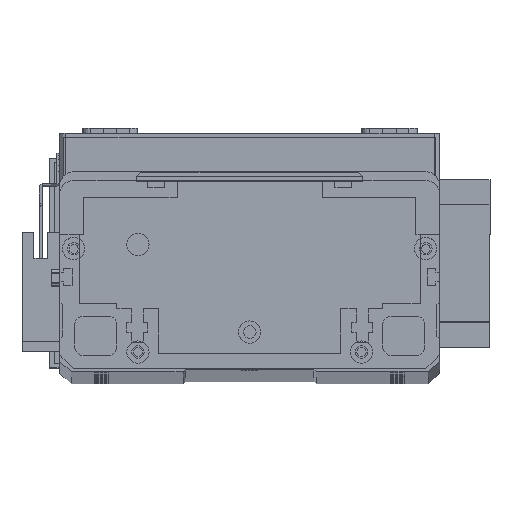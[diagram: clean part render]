
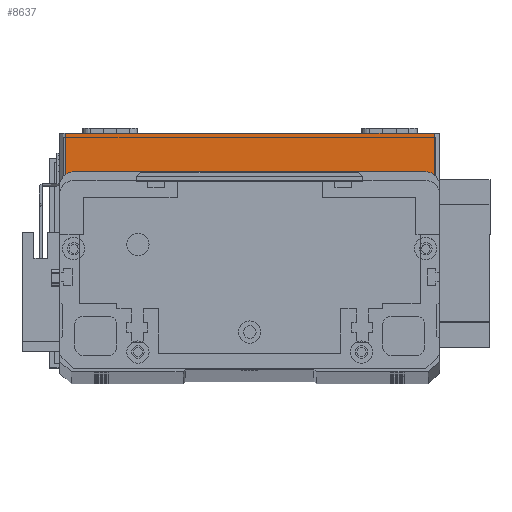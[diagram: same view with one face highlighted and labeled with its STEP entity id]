
A CAD part, top view. The second image highlights one B-rep face of the part: STEP entity #8637.
In plain terms, the highlighted planar face has unit normal (0, 0, 1) as drawn and (0, -1, 0) by its records, which use the part's own axes.
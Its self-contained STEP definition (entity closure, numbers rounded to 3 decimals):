
#3 = CARTESIAN_POINT ( 'NONE',  ( 134., 0., 19.5 ) ) ;
#5400 = LINE ( 'NONE', #15555, #29876 ) ;
#5602 = PLANE ( 'NONE',  #29147 ) ;
#6071 = CARTESIAN_POINT ( 'NONE',  ( 2., 0., 19.5 ) ) ;
#6092 = DIRECTION ( 'NONE',  ( 1., 0., 0. ) ) ;
#6290 = ORIENTED_EDGE ( 'NONE', *, *, #15987, .T. ) ;
#6349 = EDGE_LOOP ( 'NONE', ( #28079, #6290, #25731, #12544 ) ) ;
#6868 = VECTOR ( 'NONE', #9905, 1000. ) ;
#8015 = DIRECTION ( 'NONE',  ( 0., 1., 0. ) ) ;
#8637 = ADVANCED_FACE ( 'NONE', ( #28524 ), #5602, .F. ) ;
#9363 = VERTEX_POINT ( 'NONE', #6071 ) ;
#9806 = CARTESIAN_POINT ( 'NONE',  ( 134., 0., 0. ) ) ;
#9905 = DIRECTION ( 'NONE',  ( 0., 0., 1. ) ) ;
#11587 = DIRECTION ( 'NONE',  ( 1., 0., 0. ) ) ;
#11843 = LINE ( 'NONE', #30507, #22977 ) ;
#12298 = CARTESIAN_POINT ( 'NONE',  ( 134., 0., 19.5 ) ) ;
#12544 = ORIENTED_EDGE ( 'NONE', *, *, #24890, .T. ) ;
#14172 = EDGE_CURVE ( 'NONE', #29853, #14339, #11843, .T. ) ;
#14339 = VERTEX_POINT ( 'NONE', #9806 ) ;
#15555 = CARTESIAN_POINT ( 'NONE',  ( 0., 0., 19.5 ) ) ;
#15987 = EDGE_CURVE ( 'NONE', #9363, #29853, #28761, .T. ) ;
#17355 = CARTESIAN_POINT ( 'NONE',  ( 0., 0., 19.5 ) ) ;
#20938 = VERTEX_POINT ( 'NONE', #3 ) ;
#22977 = VECTOR ( 'NONE', #11587, 1000. ) ;
#24309 = LINE ( 'NONE', #12298, #6868 ) ;
#24500 = EDGE_CURVE ( 'NONE', #9363, #20938, #5400, .T. ) ;
#24597 = DIRECTION ( 'NONE',  ( 0., 0., 1. ) ) ;
#24890 = EDGE_CURVE ( 'NONE', #14339, #20938, #24309, .T. ) ;
#25731 = ORIENTED_EDGE ( 'NONE', *, *, #14172, .T. ) ;
#26328 = CARTESIAN_POINT ( 'NONE',  ( 2., 0., 19.5 ) ) ;
#28079 = ORIENTED_EDGE ( 'NONE', *, *, #24500, .F. ) ;
#28524 = FACE_OUTER_BOUND ( 'NONE', #6349, .T. ) ;
#28693 = DIRECTION ( 'NONE',  ( 0., 0., -1. ) ) ;
#28761 = LINE ( 'NONE', #26328, #29510 ) ;
#28869 = CARTESIAN_POINT ( 'NONE',  ( 2., 0., 0. ) ) ;
#29147 = AXIS2_PLACEMENT_3D ( 'NONE', #17355, #8015, #24597 ) ;
#29510 = VECTOR ( 'NONE', #28693, 1000. ) ;
#29853 = VERTEX_POINT ( 'NONE', #28869 ) ;
#29876 = VECTOR ( 'NONE', #6092, 1000. ) ;
#30507 = CARTESIAN_POINT ( 'NONE',  ( 0., 0., 0. ) ) ;
